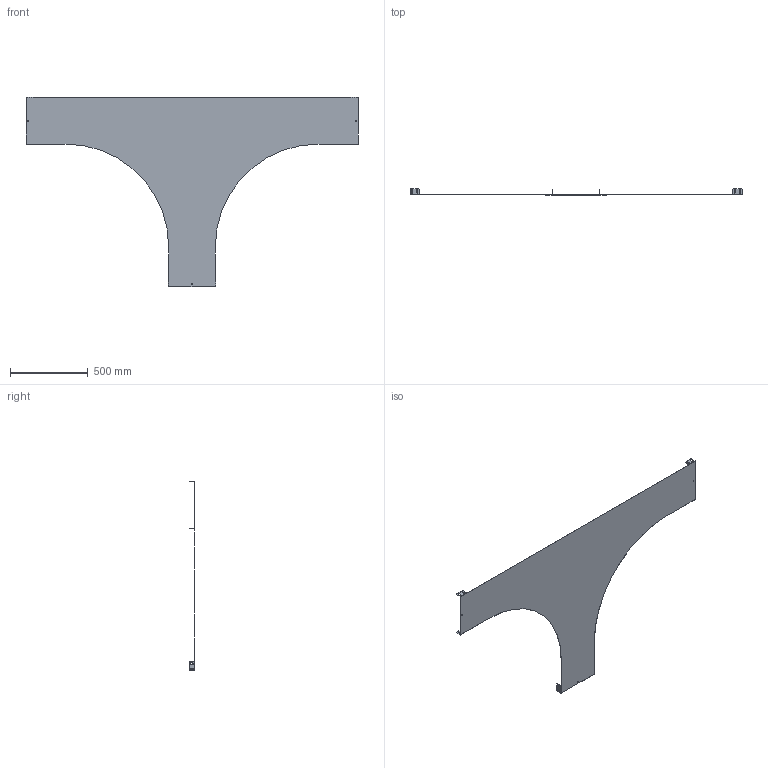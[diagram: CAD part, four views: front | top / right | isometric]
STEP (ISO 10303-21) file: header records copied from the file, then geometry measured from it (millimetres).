
FILE_DESCRIPTION (( 'STEP AP203' ), '1' );
FILE_NAME ('UKT603 (R600).STEP', '2015-03-30T12:53:42', ( '' ), ( '' ), 'SwSTEP 2.0', 'SolidWorks 2014', '' );
FILE_SCHEMA (( 'CONFIG_CONTROL_DESIGN' ));
Length unit declared in the file: millimetre
Products named in the file (1): UKT603 (R600)
Bounding box: 2134.4 x 38.2 x 1219 mm (x, y, z)
Volume: 1336270.9 mm3; surface area: 2236441.6 mm2
Topology: 1 solids, 1 shells, 238 faces, 696 edges, 424 vertices
Faces by surface type: plane 190, cylinder 48
Entity records: 7961 total; most frequent: ORIENTED_EDGE 1392, DIRECTION 1366, CARTESIAN_POINT 1359, EDGE_CURVE 696, VECTOR 504, LINE 504, AXIS2_PLACEMENT_3D 431, VERTEX_POINT 424
